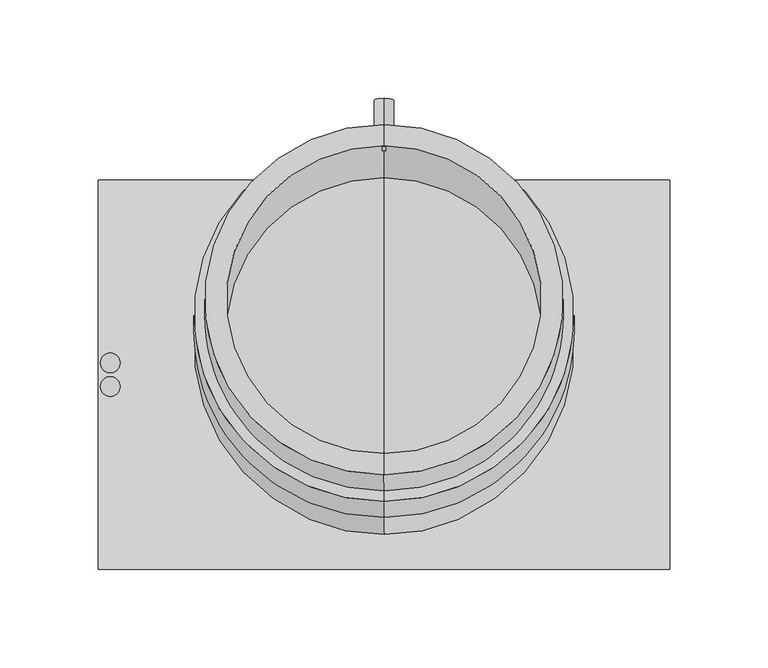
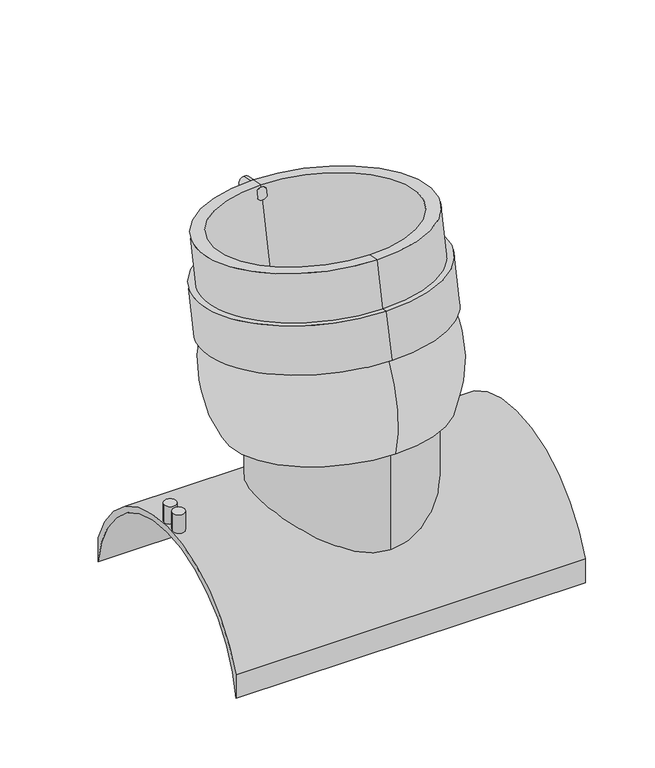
"""IFC4 building model written with IfcOpenShell, lengths in millimetres: pipe fitting geometry, Plumbing_Pipe-Fittings_Plasson_Wastewater-Adjustable-Saddle_475804 : Plumbing_Pipe-Fittings_Plasson_Wastewater-Adjustable-Saddle_475804."""

from ifc_helpers import new_model, si_unit, point, frame, frame_2d, origin, origin_2d, place, context, project, spatial, polyline, circle_curve, ellipse_curve, trimmed, segment, composite_curve, outline, extrude, source, transform, mapped, element, save
from ifc_brep_helpers import plane_surface, cylinder_surface, revolved_surface, advanced_brep


def pipe_fitting_6928912b(model_context):
    return source(origin(), model_context, "Body", "SolidModel", [
        advanced_brep(
        [(0.0, -70.5, 211.3333333), (0.0, 70.5, 211.3333333), (0.0, 0.0, 211.3333333), (0.0, -70.5, 30.0), (0.0, 70.5, 30.0), (0.0, 0.0, 30.0)],
        [
            (0, 1, circle_curve(frame((0.0, 0.0, 211.3333333), z_axis=(0.0, 0.0, 1.0), x_axis=(0.0, 1.0, 0.0)), 70.5)),
            (1, 2),
            (2, 0),
            (1, 0, circle_curve(frame((0.0, 0.0, 211.3333333), z_axis=(0.0, 0.0, 1.0), x_axis=(0.0, 1.0, 0.0)), 70.5)),
            (3, 4, circle_curve(frame((0.0, 0.0, 30.0), z_axis=(0.0, 0.0, 1.0), x_axis=(0.0, 1.0, 0.0)), 70.5)),
            (4, 1),
            (0, 3),
            (4, 3, circle_curve(frame((0.0, 0.0, 30.0), z_axis=(0.0, 0.0, 1.0), x_axis=(0.0, 1.0, 0.0)), 70.5)),
            (5, 4),
            (3, 5),
        ],
        [
            plane_surface(frame((0.0, 0.0, 211.3333333), z_axis=(0.0, 0.0, 1.0), x_axis=(0.0, 1.0, 0.0))),
            cylinder_surface(frame((0.0, 0.0, 5.0), z_axis=(0.0, 0.0, -1.0), x_axis=(0.0, 1.0, 0.0)), 70.5),
            plane_surface(frame((0.0, 0.0, 30.0), z_axis=(0.0, 0.0, -1.0), x_axis=(0.0, 1.0, 0.0))),
        ],
        [
            (0, [[1, 2, 3]]),
            (0, [[4, -3, -2]]),
            (1, [[5, 6, -1, 7]]),
            (1, [[8, -7, -4, -6]]),
            (2, [[9, -5, 10]]),
            (2, [[-10, -8, -9]]),
        ],
    ),
        extrude(outline(composite_curve([segment(trimmed(circle_curve(frame_2d((0.0, -5.0)), 5.0), [point((0.0, -10.0))], [point((0.0, 0.0))], False, "CARTESIAN"), True, "CONTINUOUS"), segment(trimmed(circle_curve(frame_2d((0.0, -5.0)), 5.0), [point((0.0, 0.0))], [point((0.0, -10.0))], False, "CARTESIAN"), True, "CONTINUOUS")], self_intersect=False)), frame((0.0, 110.8794667, 137.2914379), z_axis=(0.0, -0.9781476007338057, 0.20791169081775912), x_axis=(1.0, 0.0, 0.0)), (0.0, 0.0, 1.0), 25.0),
        extrude(outline(composite_curve([segment(trimmed(circle_curve(frame_2d((0.0, 137.0)), 5.0), [point((0.0, 132.0))], [point((0.0, 142.0))], False, "CARTESIAN"), True, "CONTINUOUS"), segment(trimmed(circle_curve(frame_2d((0.0, 137.0)), 5.0), [point((0.0, 142.0))], [point((0.0, 132.0))], False, "CARTESIAN"), True, "CONTINUOUS")], self_intersect=False)), frame((0.0, 110.8794667, 137.2914379), z_axis=(0.0, -0.9781476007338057, 0.20791169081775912), x_axis=(1.0, 0.0, 0.0)), (0.0, 0.0, 1.0), 25.0),
        advanced_brep(
        [(0.0, -50.8981796, 318.8953839), (0.0, 127.1246837, 281.0554561), (0.0, 116.3650601, 283.3424847), (0.0, -40.138556, 316.6083553), (0.0, -59.0067355, 280.7476274), (0.0, 119.0161278, 242.9076997), (0.0, -72.4951033, 243.7433853), (0.0, 116.2873837, 203.616429), (0.0, 124.3959396, 241.7641854), (0.0, -64.3865473, 281.8911417), (0.0, 5.6790283, 147.3843943), (0.0, 89.3106482, 129.6079447), (0.0, -77.9525915, 165.1608438), (0.0, 100.1479483, 207.0469719), (0.0, -56.3556679, 240.3128424), (0.0, 21.8961402, 223.6799071), (0.0, -67.1152915, 242.599871), (0.0, 110.9075719, 204.7599433)],
        [
            (0, 1, circle_curve(frame((0.0, 38.1132521, 299.97542), z_axis=(0.0, 0.20791169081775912, 0.9781476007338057), x_axis=(0.0, 0.9781476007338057, -0.20791169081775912)), 91.0)),
            (1, 2),
            (2, 3, circle_curve(frame((0.0, 38.1132521, 299.97542), z_axis=(0.0, -0.20791169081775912, -0.9781476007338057), x_axis=(0.0, 0.9781476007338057, -0.20791169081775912)), 80.0)),
            (3, 0),
            (1, 0, circle_curve(frame((0.0, 38.1132521, 299.97542), z_axis=(0.0, 0.20791169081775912, 0.9781476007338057), x_axis=(0.0, 0.9781476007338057, -0.20791169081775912)), 91.0)),
            (3, 2, circle_curve(frame((0.0, 38.1132521, 299.97542), z_axis=(0.0, -0.20791169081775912, -0.9781476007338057), x_axis=(0.0, 0.9781476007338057, -0.20791169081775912)), 80.0)),
            (4, 5, circle_curve(frame((0.0, 30.0046961, 261.8276636), z_axis=(0.0, 0.20791169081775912, 0.9781476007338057), x_axis=(0.0, 0.9781476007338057, -0.20791169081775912)), 91.0)),
            (5, 1),
            (0, 4),
            (5, 4, circle_curve(frame((0.0, 30.0046961, 261.8276636), z_axis=(0.0, 0.20791169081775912, 0.9781476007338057), x_axis=(0.0, 0.9781476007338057, -0.20791169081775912)), 91.0)),
            (6, 7, circle_curve(frame((0.0, 21.8961402, 223.6799071), z_axis=(0.0, 0.20791169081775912, 0.9781476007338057), x_axis=(0.0, 0.9781476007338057, -0.20791169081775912)), 96.5)),
            (7, 8),
            (8, 9, circle_curve(frame((0.0, 30.0046961, 261.8276636), z_axis=(0.0, -0.20791169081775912, -0.9781476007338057), x_axis=(0.0, 0.9781476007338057, -0.20791169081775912)), 96.5)),
            (9, 6),
            (7, 6, circle_curve(frame((0.0, 21.8961402, 223.6799071), z_axis=(0.0, 0.20791169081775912, 0.9781476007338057), x_axis=(0.0, 0.9781476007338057, -0.20791169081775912)), 96.5)),
            (9, 8, circle_curve(frame((0.0, 30.0046961, 261.8276636), z_axis=(0.0, -0.20791169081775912, -0.9781476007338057), x_axis=(0.0, 0.9781476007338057, -0.20791169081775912)), 96.5)),
            (10, 11),
            (11, 12, circle_curve(frame((0.0, 5.6790283, 147.3843943), z_axis=(0.0, -0.20791169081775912, -0.9781476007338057), x_axis=(0.0, 0.9781476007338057, -0.20791169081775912)), 85.5)),
            (12, 10),
            (12, 11, circle_curve(frame((0.0, 5.6790283, 147.3843943), z_axis=(0.0, -0.20791169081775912, -0.9781476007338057), x_axis=(0.0, 0.9781476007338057, -0.20791169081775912)), 85.5)),
            (2, 13),
            (13, 14, circle_curve(frame((0.0, 21.8961402, 223.6799071), z_axis=(0.0, -0.20791169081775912, -0.9781476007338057), x_axis=(0.0, 0.9781476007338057, -0.20791169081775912)), 80.0)),
            (14, 3),
            (14, 13, circle_curve(frame((0.0, 21.8961402, 223.6799071), z_axis=(0.0, -0.20791169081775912, -0.9781476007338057), x_axis=(0.0, 0.9781476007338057, -0.20791169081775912)), 80.0)),
            (13, 15),
            (15, 14),
            (8, 5),
            (4, 9),
            (16, 17, circle_curve(frame((0.0, 21.8961402, 223.6799071), z_axis=(0.0, 0.20791169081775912, 0.9781476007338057), x_axis=(0.0, 0.9781476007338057, -0.20791169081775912)), 91.0)),
            (17, 7),
            (6, 16),
            (17, 16, circle_curve(frame((0.0, 21.8961402, 223.6799071), z_axis=(0.0, 0.20791169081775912, 0.9781476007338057), x_axis=(0.0, 0.9781476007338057, -0.20791169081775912)), 91.0)),
            (11, 17, circle_curve(frame((0.0, 12.4210524, 192.3834374), z_axis=(1.0, 0.0, 0.0), x_axis=(0.0, 0.20791169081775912, 0.9781476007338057)), 99.2611325)),
            (16, 12, circle_curve(frame((0.0, 17.8226426, 191.2352939), z_axis=(1.0, 0.0, 0.0), x_axis=(0.0, 0.20791169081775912, 0.9781476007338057)), 99.2611325)),
        ],
        [
            plane_surface(frame((0.0, 38.1132521, 299.97542), z_axis=(0.0, 0.20791169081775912, 0.9781476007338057), x_axis=(0.0, 0.9781476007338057, -0.20791169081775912))),
            cylinder_surface(frame((0.0, 41.5643618, 316.2116147), z_axis=(0.0, -0.20791169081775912, -0.9781476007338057), x_axis=(0.0, 0.9781476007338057, -0.20791169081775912)), 91.0),
            cylinder_surface(frame((0.0, 41.5643618, 316.2116147), z_axis=(0.0, -0.20791169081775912, -0.9781476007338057), x_axis=(0.0, 0.9781476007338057, -0.20791169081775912)), 96.5),
            plane_surface(frame((0.0, 5.6790283, 147.3843943), z_axis=(0.0, -0.20791169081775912, -0.9781476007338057), x_axis=(0.0, 0.9781476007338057, -0.20791169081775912))),
            revolved_surface(polyline([(0.0, 100.14794824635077, 207.04697183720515), (0.0, 116.36506014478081, 283.3424847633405)]), (0.0, 41.5643618, 316.2116147), (0.0, -0.20791169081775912, -0.9781476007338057)),
            plane_surface(frame((0.0, 21.8961402, 223.6799071), z_axis=(0.0, 0.20791169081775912, 0.9781476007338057), x_axis=(0.0, 0.9781476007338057, -0.20791169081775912))),
            plane_surface(frame((0.0, 30.0046961, 261.8276636), z_axis=(0.0, 0.20791169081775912, 0.9781476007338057), x_axis=(0.0, 0.9781476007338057, -0.20791169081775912))),
            plane_surface(frame((0.0, 21.8961402, 223.6799071), z_axis=(0.0, -0.20791169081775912, -0.9781476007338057), x_axis=(0.0, 0.9781476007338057, -0.20791169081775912))),
            revolved_surface(trimmed(ellipse_curve(frame((0.0, 12.4210524, 192.3834374), z_axis=(-1.0, 0.0, 0.0), x_axis=(0.0, 0.20791169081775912, 0.9781476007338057)), 99.2611325, 99.2611325), [point((0.0, 110.9075719, 204.7599433))], [point((0.0, 89.3106482, 129.6079447))], True, "CARTESIAN"), (0.0, 41.5643618, 316.2116147), (0.0, -0.20791169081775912, -0.9781476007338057)),
        ],
        [
            (0, [[1, 2, 3, 4]]),
            (0, [[5, -4, 6, -2]]),
            (1, [[7, 8, -1, 9]]),
            (1, [[10, -9, -5, -8]]),
            (2, [[11, 12, 13, 14]]),
            (2, [[15, -14, 16, -12]]),
            (3, [[17, 18, 19]]),
            (3, [[-19, 20, -17]]),
            (4, [[-3, 21, 22, 23]]),
            (4, [[-6, -23, 24, -21]]),
            (5, [[-22, 25, 26]]),
            (5, [[-24, -26, -25]]),
            (6, [[-13, 27, -7, 28]]),
            (6, [[-16, -28, -10, -27]]),
            (7, [[29, 30, -11, 31]]),
            (7, [[32, -31, -15, -30]]),
            (8, [[-18, 33, -29, 34]]),
            (8, [[-20, -34, -32, -33]]),
        ],
    ),
        extrude(outline(composite_curve([segment(trimmed(circle_curve(frame_2d((-139.0, -6.0)), 5.0), [point((-144.0, -6.0))], [point((-134.0, -6.0))], False, "CARTESIAN"), True, "CONTINUOUS"), segment(trimmed(circle_curve(frame_2d((-139.0, -6.0)), 5.0), [point((-134.0, -6.0))], [point((-144.0, -6.0))], False, "CARTESIAN"), True, "CONTINUOUS")], self_intersect=False)), frame((0.0, 0.0, 100.0), z_axis=(0.0, 0.0, 1.0), x_axis=(1.0, 0.0, 0.0)), (0.0, 0.0, 1.0), 20.0),
        extrude(outline(composite_curve([segment(trimmed(circle_curve(frame_2d((-139.0, 6.0)), 5.0), [point((-144.0, 6.0))], [point((-134.0, 6.0))], False, "CARTESIAN"), True, "CONTINUOUS"), segment(trimmed(circle_curve(frame_2d((-139.0, 6.0)), 5.0), [point((-134.0, 6.0))], [point((-144.0, 6.0))], False, "CARTESIAN"), True, "CONTINUOUS")], self_intersect=False)), frame((0.0, 0.0, 100.0), z_axis=(0.0, 0.0, 1.0), x_axis=(1.0, 0.0, 0.0)), (0.0, 0.0, 1.0), 20.0),
        extrude(outline(composite_curve([segment(polyline([(-99.0, 14.106736), (-99.0, 34.9857114)]), True, "CONTINUOUS"), segment(trimmed(circle_curve(origin_2d(), 105.0), [point((-99.0, 34.9857114))], [point((99.0, 34.9857114))], False, "CARTESIAN"), True, "CONTINUOUS"), segment(polyline([(99.0, 34.9857114), (99.0, 14.106736)]), True, "CONTINUOUS"), segment(trimmed(circle_curve(origin_2d(), 100.0), [point((99.0, 14.106736))], [point((-99.0, 14.106736))], True, "CARTESIAN"), True, "CONTINUOUS")], self_intersect=False)), frame((-145.0, 0.0, 0.0), z_axis=(1.0, 0.0, 0.0), x_axis=(0.0, 1.0, 0.0)), (0.0, 0.0, 1.0), 290.0),
    ])


if __name__ == "__main__":
    model = new_model("IFC4")
    model_context = context("Model", 3, world=origin())
    ifc_project = project(units=[si_unit("LENGTHUNIT", "METRE", prefix="MILLI")], contexts=[model_context])
    site = spatial("IfcSite", under=ifc_project)
    building = spatial("IfcBuilding", under=site)
    placement = place(None, origin())
    pipe_fitting_shape = pipe_fitting_6928912b(model_context)
    element("IfcPipeFitting", 1, ObjectType="Plumbing_Pipe-Fittings_Plasson_Wastewater-Adjustable-Saddle_475804 : Plumbing_Pipe-Fittings_Plasson_Wastewater-Adjustable-Saddle_475804", at=placement, inside=building, context=model_context, shape_type="MappedRepresentation", body=[
        mapped(pipe_fitting_shape, transform((0.0, 0.0, 0.0), x_axis=(1.0, 0.0, 0.0), y_axis=(0.0, 1.0, 0.0), z_axis=(0.0, 0.0, 1.0))),
    ])
    save(model, "model.ifc")
